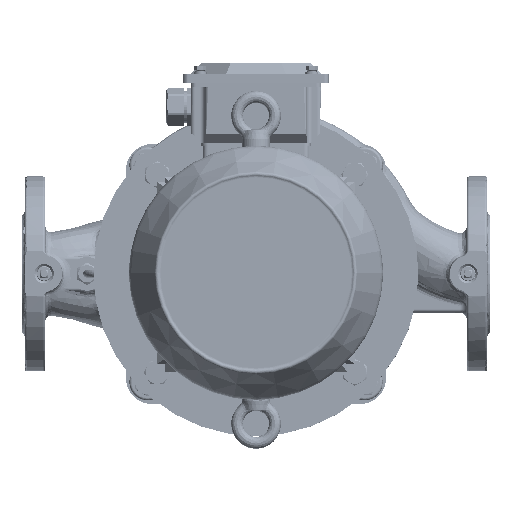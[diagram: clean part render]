
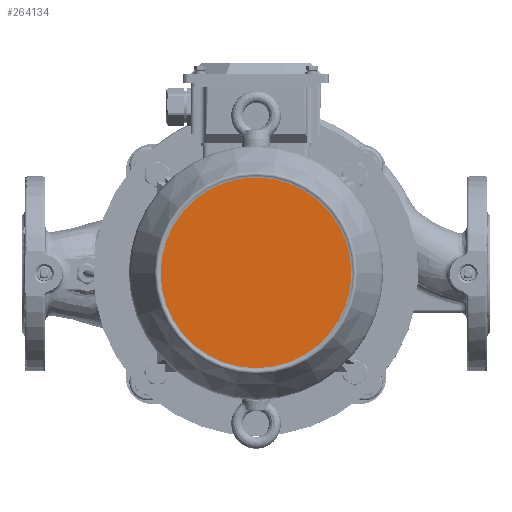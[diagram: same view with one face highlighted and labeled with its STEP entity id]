
A CAD part, top view. The second image highlights one B-rep face of the part: STEP entity #264134.
In plain terms, the highlighted planar face has unit normal (0, 0, 1) as drawn and (0, 1, 0) by its records, which use the part's own axes.
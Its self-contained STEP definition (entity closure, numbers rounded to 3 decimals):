
#235084=CARTESIAN_POINT('',(0.,62.61,
0.));
#235085=DIRECTION('',(0.,-1.,0.));
#235086=DIRECTION('',(0.,0.,1.));
#235087=AXIS2_PLACEMENT_3D('',#235084,#235085,#235086);
#235089=CARTESIAN_POINT('',(0.,62.61,
0.));
#235090=DIRECTION('',(0.,-1.,0.));
#235091=DIRECTION('',(0.,0.,-1.));
#235092=AXIS2_PLACEMENT_3D('',#235089,#235090,#235091);
#239535=CARTESIAN_POINT('',(0.,62.61,
-73.366));
#239536=VERTEX_POINT('',#239535);
#239537=CARTESIAN_POINT('',(0.,62.61,
73.366));
#239538=VERTEX_POINT('',#239537);
#264125=CARTESIAN_POINT('',(0.,62.61,
0.));
#264126=DIRECTION('',(0.,1.,0.));
#264127=DIRECTION('',(0.,0.,-1.));
#264128=AXIS2_PLACEMENT_3D('',#264125,#264126,#264127);
#264129=PLANE('',#264128);
#264130=ORIENTED_EDGE('',*,*,#264118,.T.);
#264131=ORIENTED_EDGE('',*,*,#264104,.T.);
#264132=EDGE_LOOP('',(#264130,#264131));
#264133=FACE_OUTER_BOUND('',#264132,.F.);
#264134=ADVANCED_FACE('',(#264133),#264129,.T.);
#235088=CIRCLE('',#235087,73.366);
#235093=CIRCLE('',#235092,73.366);
#264104=EDGE_CURVE('',#239536,#239538,#235093,.T.);
#264118=EDGE_CURVE('',#239538,#239536,#235088,.T.);
